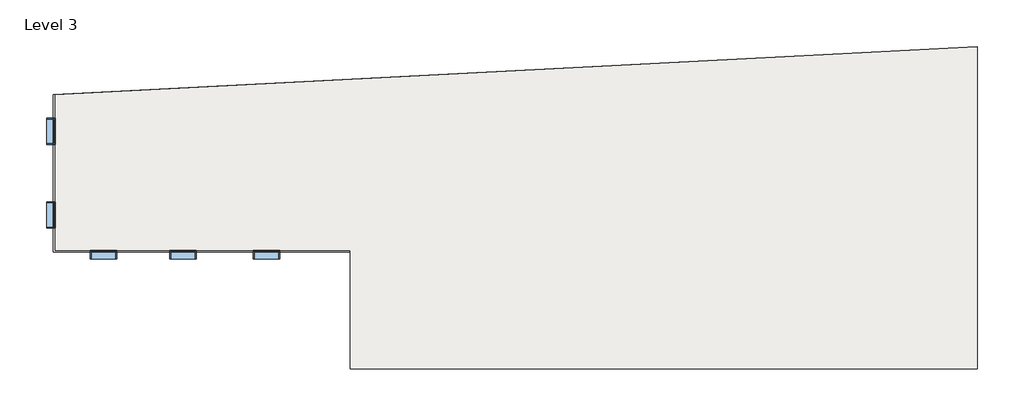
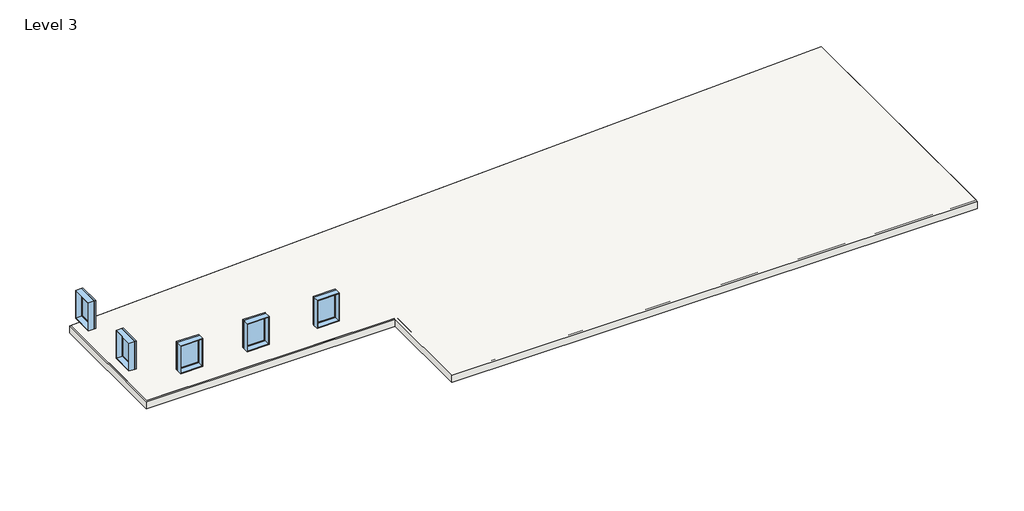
# One storey: 5 windows, 3 slabs.
"""IFC4 building model written with IfcOpenShell, lengths in millimetres."""

from ifc_helpers import new_model, si_unit, frame, origin, place, context, project, spatial, polyline, outline, extrude, transform, mapped, element, save
from components import window_9bb1ed39

model = new_model("IFC4")

# Units and contexts
model_context = context("Model", 3, world=origin())
ifc_project = project(units=[si_unit("LENGTHUNIT", "METRE", prefix="MILLI")], contexts=[model_context])

# Site, building, storey
site = spatial("IfcSite", under=ifc_project)
building = spatial("IfcBuilding", under=site)
storey = spatial("IfcBuildingStorey", under=building, Name="Level 3", Elevation=6096.0)

# Slabs
placement = place(None, origin())
element("IfcSlab", 1, ObjectType="Generic - 12\"", at=placement, inside=storey, context=model_context, shape_type="SweptSolid", body=[
    extrude(outline(polyline([(-11412.9436041, 14193.4725808), (20494.2188959, 15856.8791566), (20494.2188959, 4686.3138106), (-1197.3811041, 4686.3138106), (-1197.3811041, 8796.3513106), (-11412.9436041, 8796.3513106), (-11412.9436041, 14193.4725808)])), frame((0.0, 0.0, 5791.2), z_axis=(0.0, 0.0, 1.0), x_axis=(1.0, 0.0, 0.0)), (0.0, 0.0, 1.0), 304.8),
])
element("IfcSlab", 2, ObjectType="Generic - 12\"", at=placement, inside=storey, context=model_context, shape_type="SweptSolid", body=[
    extrude(outline(polyline([(-11474.8561041, 14190.2449149), (20494.2188959, 15856.8791566), (20494.2188959, 4787.9138106), (-1095.7811041, 4787.9138106), (-1095.7811041, 8734.4388106), (-11474.8561041, 8734.4388106), (-11474.8561041, 14190.2449149)])), frame((0.0, 0.0, 5791.2), z_axis=(0.0, 0.0, 1.0), x_axis=(1.0, 0.0, 0.0)), (0.0, 0.0, 1.0), 304.8),
])
element("IfcSlab", 3, ObjectType="Generic - 12\"", at=placement, inside=storey, context=model_context, shape_type="SweptSolid", body=[
    extrude(outline(polyline([(-11474.8561041, 14190.2449149), (20494.2188959, 15856.8791566), (20494.2188959, 4787.9138106), (-1095.7811041, 4787.9138106), (-1095.7811041, 8734.4388106), (-11474.8561041, 8734.4388106), (-11474.8561041, 14190.2449149)])), frame((0.0, 0.0, 5791.2), z_axis=(0.0, 0.0, 1.0), x_axis=(1.0, 0.0, 0.0)), (0.0, 0.0, 1.0), 304.8),
])

# Windows
window_shape = window_9bb1ed39(model_context)
element("IfcWindow", 4, ObjectType="Fixed : 36\" x 48\"", at=placement, inside=storey, context=model_context, shape_type="MappedRepresentation", body=[
    mapped(window_shape, transform((-9693.6811041, 8648.7138106, 6096.0), x_axis=(1.0, 0.0, 0.0), y_axis=(0.0, 1.0, 0.0), z_axis=(0.0, 0.0, 1.0))),
])
element("IfcWindow", 5, ObjectType="Fixed : 36\" x 48\"", at=placement, inside=storey, context=model_context, shape_type="MappedRepresentation", body=[
    mapped(window_shape, transform((-6950.4811041, 8648.7138106, 6096.0), x_axis=(1.0, 0.0, 0.0), y_axis=(0.0, 1.0, 0.0), z_axis=(0.0, 0.0, 1.0))),
])
element("IfcWindow", 6, ObjectType="Fixed : 36\" x 48\"", at=placement, inside=storey, context=model_context, shape_type="MappedRepresentation", body=[
    mapped(window_shape, transform((-4054.8811041, 8648.7138106, 6096.0), x_axis=(1.0, 0.0, 0.0), y_axis=(0.0, 1.0, 0.0), z_axis=(0.0, 0.0, 1.0))),
])
element("IfcWindow", 7, ObjectType="Fixed : 36\" x 48\"", at=placement, inside=storey, context=model_context, shape_type="MappedRepresentation", body=[
    mapped(window_shape, transform((-11560.5811041, 12877.8138106, 6096.0), x_axis=(0.0, -1.0, 0.0), y_axis=(1.0, 0.0, 0.0), z_axis=(0.0, 0.0, 1.0))),
])
element("IfcWindow", 8, ObjectType="Fixed : 36\" x 48\"", at=placement, inside=storey, context=model_context, shape_type="MappedRepresentation", body=[
    mapped(window_shape, transform((-11560.5811041, 9982.2138106, 6096.0), x_axis=(0.0, -1.0, 0.0), y_axis=(1.0, 0.0, 0.0), z_axis=(0.0, 0.0, 1.0))),
])

save(model, "model.ifc")
